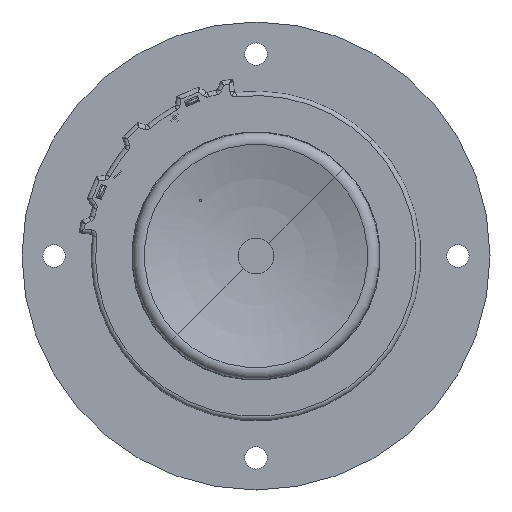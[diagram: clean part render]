
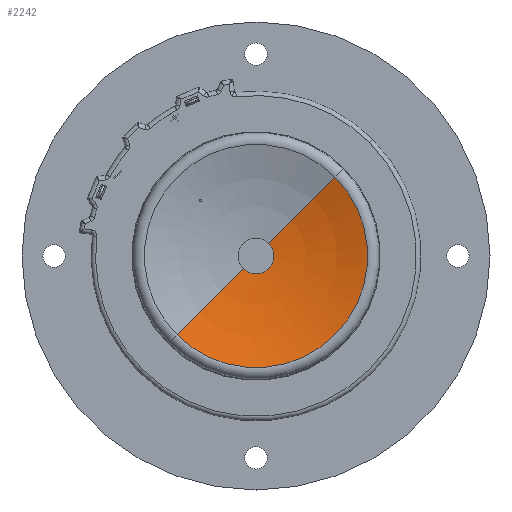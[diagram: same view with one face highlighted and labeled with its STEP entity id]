
A CAD part, front view. The second image highlights one B-rep face of the part: STEP entity #2242.
In plain terms, the highlighted toroidal (fillet/blend) face has major radius 0.237 mm and minor radius 80 mm.
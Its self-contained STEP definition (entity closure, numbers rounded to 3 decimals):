
#803 = CARTESIAN_POINT ( 'NONE',  ( -17.596, -10.203, -17.596 ) ) ;
#1204 = VERTEX_POINT ( 'NONE', #19298 ) ;
#2058 = EDGE_LOOP ( 'NONE', ( #10621, #5649, #14496, #24760 ) ) ;
#2242 = ADVANCED_FACE ( 'NONE', ( #15971 ), #2456, .F. ) ;
#2456 = TOROIDAL_SURFACE ( 'NONE', #18878, 0.237, 80. ) ;
#2624 = DIRECTION ( 'NONE',  ( -0.707, 0., -0.707 ) ) ;
#2726 = CARTESIAN_POINT ( 'NONE',  ( 17.596, -10.203, 17.596 ) ) ;
#4446 = CARTESIAN_POINT ( 'NONE',  ( 0.168, -86.311, 0.168 ) ) ;
#5338 = EDGE_CURVE ( 'NONE', #1204, #10889, #18845, .T. ) ;
#5649 = ORIENTED_EDGE ( 'NONE', *, *, #24751, .T. ) ;
#7391 = AXIS2_PLACEMENT_3D ( 'NONE', #13069, #11262, #13469 ) ;
#7901 = DIRECTION ( 'NONE',  ( 0., -1., 0. ) ) ;
#8239 = DIRECTION ( 'NONE',  ( 0., -1., 0. ) ) ;
#8405 = CIRCLE ( 'NONE', #21944, 24.884 ) ;
#10164 = EDGE_CURVE ( 'NONE', #10468, #10437, #8405, .T. ) ;
#10287 = CIRCLE ( 'NONE', #7391, 80. ) ;
#10429 = DIRECTION ( 'NONE',  ( 0.707, 0., 0.707 ) ) ;
#10437 = VERTEX_POINT ( 'NONE', #2726 ) ;
#10468 = VERTEX_POINT ( 'NONE', #803 ) ;
#10553 = CARTESIAN_POINT ( 'NONE',  ( 2.828, -6.4, 2.828 ) ) ;
#10621 = ORIENTED_EDGE ( 'NONE', *, *, #5338, .F. ) ;
#10889 = VERTEX_POINT ( 'NONE', #10553 ) ;
#11262 = DIRECTION ( 'NONE',  ( -0.707, 0., 0.707 ) ) ;
#11777 = CARTESIAN_POINT ( 'NONE',  ( 0., -6.4, 0. ) ) ;
#13069 = CARTESIAN_POINT ( 'NONE',  ( -0.168, -86.311, -0.168 ) ) ;
#13469 = DIRECTION ( 'NONE',  ( 0.707, 0., 0.707 ) ) ;
#14496 = ORIENTED_EDGE ( 'NONE', *, *, #10164, .T. ) ;
#15971 = FACE_OUTER_BOUND ( 'NONE', #2058, .T. ) ;
#16046 = DIRECTION ( 'NONE',  ( 0.707, 0., -0.707 ) ) ;
#17511 = EDGE_CURVE ( 'NONE', #10889, #10437, #17900, .T. ) ;
#17900 = CIRCLE ( 'NONE', #18286, 80. ) ;
#18286 = AXIS2_PLACEMENT_3D ( 'NONE', #4446, #16046, #2624 ) ;
#18845 = CIRCLE ( 'NONE', #22157, 4. ) ;
#18878 = AXIS2_PLACEMENT_3D ( 'NONE', #20197, #8239, #10429 ) ;
#19298 = CARTESIAN_POINT ( 'NONE',  ( -2.828, -6.4, -2.828 ) ) ;
#20197 = CARTESIAN_POINT ( 'NONE',  ( 0., -86.311, 0. ) ) ;
#21844 = DIRECTION ( 'NONE',  ( 0.707, 0., 0.707 ) ) ;
#21944 = AXIS2_PLACEMENT_3D ( 'NONE', #23776, #23166, #21844 ) ;
#22157 = AXIS2_PLACEMENT_3D ( 'NONE', #11777, #7901, #23876 ) ;
#23166 = DIRECTION ( 'NONE',  ( 0., -1., 0. ) ) ;
#23776 = CARTESIAN_POINT ( 'NONE',  ( 0., -10.203, 0. ) ) ;
#23876 = DIRECTION ( 'NONE',  ( 0.707, 0., 0.707 ) ) ;
#24751 = EDGE_CURVE ( 'NONE', #1204, #10468, #10287, .T. ) ;
#24760 = ORIENTED_EDGE ( 'NONE', *, *, #17511, .F. ) ;
